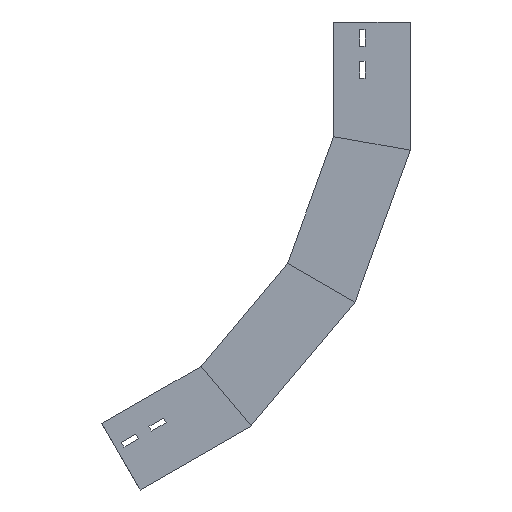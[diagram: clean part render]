
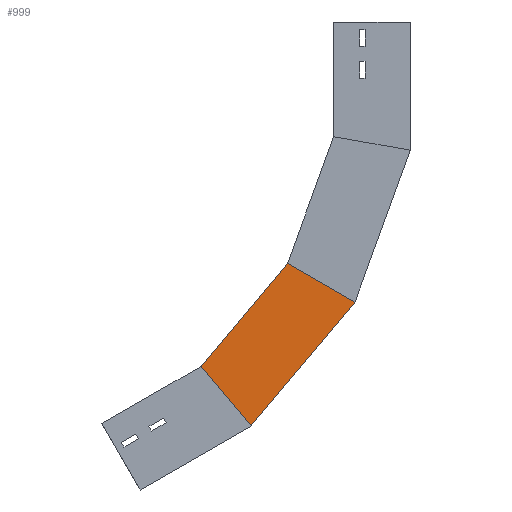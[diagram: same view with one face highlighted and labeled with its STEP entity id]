
A CAD part, left-side view. The second image highlights one B-rep face of the part: STEP entity #999.
In plain terms, the highlighted planar face has unit normal (-1, 0, 0) as drawn and (1, 0, 0) by its records, which use the part's own axes.
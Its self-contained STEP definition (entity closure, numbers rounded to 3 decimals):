
#17 = FACE_OUTER_BOUND ( 'NONE', #1520, .T. ) ;
#28 = DIRECTION ( 'NONE',  ( 0., 0.342, -0.94 ) ) ;
#34 = EDGE_CURVE ( 'NONE', #189, #1422, #1457, .T. ) ;
#90 = EDGE_CURVE ( 'NONE', #1106, #189, #150, .T. ) ;
#133 = CARTESIAN_POINT ( 'NONE',  ( 0., 28.627, -162.352 ) ) ;
#150 = LINE ( 'NONE', #133, #1063 ) ;
#164 = LINE ( 'NONE', #1207, #765 ) ;
#189 = VERTEX_POINT ( 'NONE', #284 ) ;
#268 = CARTESIAN_POINT ( 'NONE',  ( 0., 0., -167.4 ) ) ;
#284 = CARTESIAN_POINT ( 'NONE',  ( 0., 0., -167.4 ) ) ;
#431 = CARTESIAN_POINT ( 'NONE',  ( 0., 93.969, -133.198 ) ) ;
#581 = VERTEX_POINT ( 'NONE', #720 ) ;
#673 = DIRECTION ( 'NONE',  ( -1., 0., 0. ) ) ;
#677 = DIRECTION ( 'NONE',  ( 0., -0.985, -0.174 ) ) ;
#693 = ORIENTED_EDGE ( 'NONE', *, *, #90, .T. ) ;
#720 = CARTESIAN_POINT ( 'NONE',  ( 0., 160.139, -314.998 ) ) ;
#765 = VECTOR ( 'NONE', #845, 1000. ) ;
#778 = VECTOR ( 'NONE', #28, 1000. ) ;
#834 = VECTOR ( 'NONE', #849, 1000. ) ;
#845 = DIRECTION ( 'NONE',  ( 0., -0.866, -0.5 ) ) ;
#849 = DIRECTION ( 'NONE',  ( 0., 0.342, -0.94 ) ) ;
#909 = CARTESIAN_POINT ( 'NONE',  ( 0., 72.2, -365.769 ) ) ;
#978 = LINE ( 'NONE', #431, #834 ) ;
#982 = AXIS2_PLACEMENT_3D ( 'NONE', #1334, #673, #1174 ) ;
#999 = ADVANCED_FACE ( 'NONE', ( #17 ), #1317, .F. ) ;
#1035 = ORIENTED_EDGE ( 'NONE', *, *, #1661, .F. ) ;
#1063 = VECTOR ( 'NONE', #677, 1000. ) ;
#1106 = VERTEX_POINT ( 'NONE', #1517 ) ;
#1174 = DIRECTION ( 'NONE',  ( 0., 0., 1. ) ) ;
#1186 = EDGE_CURVE ( 'NONE', #1106, #581, #978, .T. ) ;
#1207 = CARTESIAN_POINT ( 'NONE',  ( 0., 103.946, -347.441 ) ) ;
#1317 = PLANE ( 'NONE',  #982 ) ;
#1334 = CARTESIAN_POINT ( 'NONE',  ( 0., 0., -167.4 ) ) ;
#1358 = ORIENTED_EDGE ( 'NONE', *, *, #1186, .F. ) ;
#1422 = VERTEX_POINT ( 'NONE', #909 ) ;
#1457 = LINE ( 'NONE', #268, #778 ) ;
#1517 = CARTESIAN_POINT ( 'NONE',  ( 0., 100., -149.767 ) ) ;
#1520 = EDGE_LOOP ( 'NONE', ( #1358, #693, #1675, #1035 ) ) ;
#1661 = EDGE_CURVE ( 'NONE', #581, #1422, #164, .T. ) ;
#1675 = ORIENTED_EDGE ( 'NONE', *, *, #34, .T. ) ;
